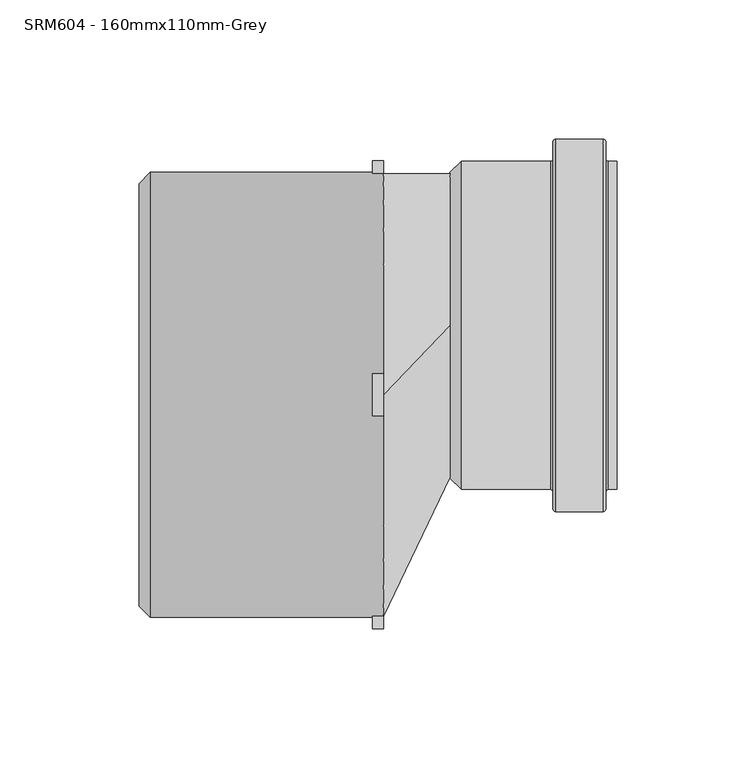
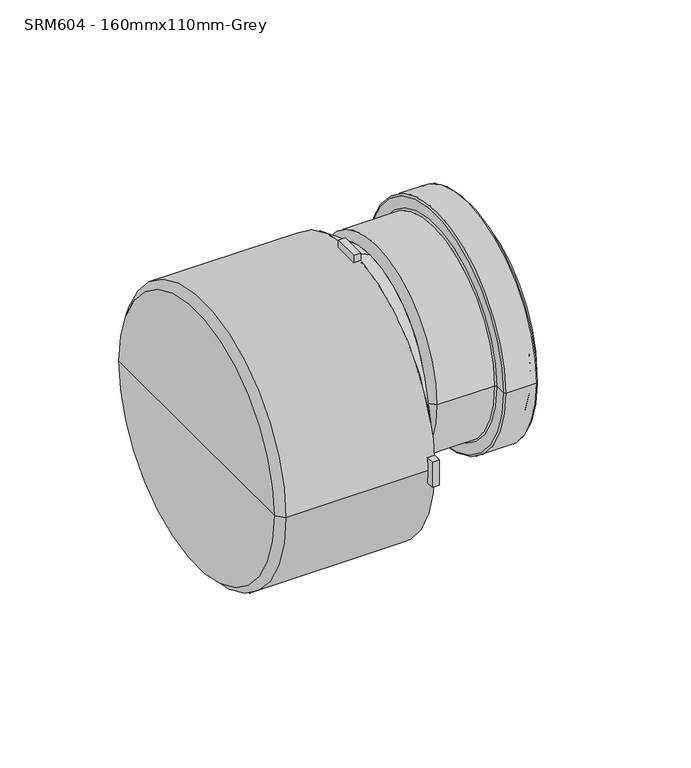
"""IFC4 building model written with IfcOpenShell, lengths in millimetres: pipe fitting geometry, MarleyPlumbingAndDrainage_PipeFitting_LevelInvertReducer : SRM604 - 160mmx110mm-Grey."""

import ifcopenshell
import ifcopenshell.guid

model = None  # the IFC model being written
_history = None  # IfcOwnerHistory: only IFC2X3 demands one
_inside = {}  # id of a spatial element -> (the spatial element, [elements in it])
_under = {}  # id of a project, library or spatial element -> (it, [spatial elements below it])
_declared = {}  # id of a project -> (the project, [libraries it declares])
_typed = {}  # id of a type object -> (the type object, [elements of that type])
_made_of = {}  # id of a material, layer set ... -> (it, [elements and type objects made of it])


def new_model(schema):
    """Start an empty IFC model of exactly this schema.

    Asked for "IFC4X3", IfcOpenShell would pick the latest addendum, in which some entities
    have other attributes; the version numbers below select the first issue.
    IFC2X3 requires an IfcOwnerHistory on every rooted entity: one is made here for all.
    """
    global model, _history
    if schema == "IFC4X3":
        model = ifcopenshell.file(schema_version=(4, 3, 0, 0))
    else:
        model = ifcopenshell.file(schema=schema)
    _inside.clear()
    _under.clear()
    _declared.clear()
    _typed.clear()
    _made_of.clear()
    _history = None
    if model.schema == "IFC2X3":
        org = make("IfcOrganization", Name="unknown")
        user = make(
            "IfcPersonAndOrganization",
            ThePerson=make("IfcPerson", FamilyName="unknown"),
            TheOrganization=org,
        )
        app = make(
            "IfcApplication",
            ApplicationDeveloper=org,
            Version="unknown",
            ApplicationFullName="unknown",
            ApplicationIdentifier="unknown",
        )
        _history = make(
            "IfcOwnerHistory",
            OwningUser=user,
            OwningApplication=app,
            ChangeAction="ADDED",
            CreationDate=0,
        )
    return model


def make(cls, **values):
    """One entity of the class cls with the attributes given. An attribute that is None is left unset."""
    return model.create_entity(
        cls, **{name: value for name, value in values.items() if value is not None}
    )


def rooted(cls, **values):
    """An entity with a GlobalId (a new one), such as an element, a storey or a relation."""
    return make(cls, GlobalId=ifcopenshell.guid.new(), OwnerHistory=_history, **values)


def si_unit(unit_type, name, prefix=None):
    """IfcSIUnit, for example si_unit("LENGTHUNIT", "METRE", prefix="MILLI")."""
    return make("IfcSIUnit", UnitType=unit_type, Prefix=prefix, Name=name)


def assignment(units):
    """IfcUnitAssignment: the units of a project."""
    return None if units is None else make("IfcUnitAssignment", Units=units)


def point(xyz):
    """IfcCartesianPoint."""
    return None if xyz is None else make("IfcCartesianPoint", Coordinates=xyz)


def direction(xyz):
    """IfcDirection."""
    return None if xyz is None else make("IfcDirection", DirectionRatios=xyz)


def frame(location, z_axis=None, x_axis=None):
    """IfcAxis2Placement3D, a coordinate frame: its origin and axes. An axis left out is left unset."""
    return make(
        "IfcAxis2Placement3D",
        Location=point(location),
        Axis=direction(z_axis),
        RefDirection=direction(x_axis),
    )


def frame_2d(location, x_axis=None):
    """IfcAxis2Placement2D, a coordinate frame in the plane: its origin and x axis."""
    return make(
        "IfcAxis2Placement2D", Location=point(location), RefDirection=direction(x_axis)
    )


def origin():
    """The frame at (0, 0, 0) with its axes left unset."""
    return frame((0.0, 0.0, 0.0))


def place(relative_to, where):
    """IfcLocalPlacement: puts the frame where relative to a parent placement (None: the world)."""
    return make(
        "IfcLocalPlacement", PlacementRelTo=relative_to, RelativePlacement=where
    )


def context(
    kind, dimensions, precision=None, world=None, true_north=None, identifier=None
):
    """IfcGeometricRepresentationContext, for example the 3D "Model" context."""
    return make(
        "IfcGeometricRepresentationContext",
        ContextIdentifier=identifier,
        ContextType=kind,
        CoordinateSpaceDimension=dimensions,
        Precision=precision,
        WorldCoordinateSystem=world,
        TrueNorth=true_north,
    )


def project(units=None, contexts=None):
    """IfcProject with its units and contexts."""
    return rooted(
        "IfcProject",
        Name="project",
        RepresentationContexts=contexts,
        UnitsInContext=assignment(units),
    )


def spatial(cls, under=None, at=None, **own):
    """A site, building, storey or space (cls), placed at a placement, below another one or the project."""
    s = rooted(cls, ObjectPlacement=at, **own)
    if under is not None:
        _under.setdefault(under.id(), (under, []))[1].append(s)
    return s


def polyline(points):
    """IfcPolyline through the points."""
    return make("IfcPolyline", Points=[point(p) for p in points])


def circle_curve(where, radius):
    """IfcCircle in the frame where."""
    return make("IfcCircle", Position=where, Radius=radius)


def ellipse_curve(where, semi_axis1, semi_axis2):
    """IfcEllipse in the frame where."""
    return make(
        "IfcEllipse", Position=where, SemiAxis1=semi_axis1, SemiAxis2=semi_axis2
    )


def trimmed(basis, trim1, trim2, sense, master):
    """IfcTrimmedCurve: the piece of a basis curve between two trims."""
    return make(
        "IfcTrimmedCurve",
        BasisCurve=basis,
        Trim1=trim1,
        Trim2=trim2,
        SenseAgreement=sense,
        MasterRepresentation=master,
    )


def segment(curve, same_sense, transition):
    """IfcCompositeCurveSegment."""
    return make(
        "IfcCompositeCurveSegment",
        Transition=transition,
        SameSense=same_sense,
        ParentCurve=curve,
    )


def composite_curve(segments, self_intersect=None):
    """IfcCompositeCurve: segments joined end to end."""
    return make("IfcCompositeCurve", Segments=segments, SelfIntersect=self_intersect)


def outline(outer, holes=None, kind="AREA"):
    """IfcArbitraryClosedProfileDef: a profile drawn as a closed curve; with holes, ...WithVoids."""
    if holes is None:
        return make("IfcArbitraryClosedProfileDef", ProfileType=kind, OuterCurve=outer)
    return make(
        "IfcArbitraryProfileDefWithVoids",
        ProfileType=kind,
        OuterCurve=outer,
        InnerCurves=holes,
    )


def extrude(swept, where, along, depth):
    """IfcExtrudedAreaSolid: the profile swept, set in the frame where, extruded along a direction by depth."""
    return make(
        "IfcExtrudedAreaSolid",
        SweptArea=swept,
        Position=where,
        ExtrudedDirection=direction(along),
        Depth=depth,
    )


def shape(context_of_items, identifier, shape_type, items):
    """IfcShapeRepresentation: the items that make up one representation, for example the "Body"."""
    return make(
        "IfcShapeRepresentation",
        ContextOfItems=context_of_items,
        RepresentationIdentifier=identifier,
        RepresentationType=shape_type,
        Items=items,
    )


def source(mapping_origin, context_of_items, identifier, shape_type, items):
    """IfcRepresentationMap: a shape defined once, which mapped items show again and again."""
    return make(
        "IfcRepresentationMap",
        MappingOrigin=mapping_origin,
        MappedRepresentation=shape(context_of_items, identifier, shape_type, items),
    )


def transform(
    local_origin,
    x_axis=None,
    y_axis=None,
    z_axis=None,
    scale=None,
    scale2=None,
    scale3=None,
    uniform=True,
):
    """IfcCartesianTransformationOperator3D, or its non-uniform kind. x_axis, y_axis, z_axis: its Axis1, 2, 3."""
    if uniform:
        return make(
            "IfcCartesianTransformationOperator3D",
            Axis1=direction(x_axis),
            Axis2=direction(y_axis),
            LocalOrigin=point(local_origin),
            Scale=scale,
            Axis3=direction(z_axis),
        )
    return make(
        "IfcCartesianTransformationOperator3DnonUniform",
        Axis1=direction(x_axis),
        Axis2=direction(y_axis),
        LocalOrigin=point(local_origin),
        Scale=scale,
        Axis3=direction(z_axis),
        Scale2=scale2,
        Scale3=scale3,
    )


def mapped(mapping_source, mapping_target):
    """IfcMappedItem: shows the shape of a source again, moved by a transform."""
    return make(
        "IfcMappedItem", MappingSource=mapping_source, MappingTarget=mapping_target
    )


def made_of(thing, what):
    """Note that an element or type object is made of a material, layer set ...; save() writes the relation."""
    if what is not None:
        _made_of.setdefault(what.id(), (what, []))[1].append(thing)
    return thing


def element(
    cls,
    number,
    at=None,
    inside=None,
    cuts=None,
    type_object=None,
    material=None,
    context=None,
    identifier="Body",
    shape_type=None,
    held_by="IfcProductDefinitionShape",
    body=None,
    shapes=None,
    **own,
):
    """One element of the class cls, such as IfcWall. Its Tag is "e" and its number.

    at: its placement. inside: the storey or other place that contains it. cuts: it is an
    opening in that element (IfcRelVoidsElement). A single representation is given by context,
    identifier, shape_type and body (its items); several are given by shapes. held_by: the class
    of the entity that holds the representations. save() writes the other relations.
    """
    e = rooted(cls, Tag="e%d" % number, ObjectPlacement=at, **own)
    if body is not None:
        shapes = [shape(context, identifier, shape_type, body)]
    if shapes is not None:
        e.Representation = make(held_by, Representations=shapes)
    if inside is not None:
        _inside.setdefault(inside.id(), (inside, []))[1].append(e)
    if cuts is not None:
        rooted(
            "IfcRelVoidsElement", RelatingBuildingElement=cuts, RelatedOpeningElement=e
        )
    if type_object is not None:
        _typed.setdefault(type_object.id(), (type_object, []))[1].append(e)
    return made_of(e, material)


def aggregate(whole, parts):
    """IfcRelAggregates: a whole, such as a stair, and the parts it consists of."""
    return rooted("IfcRelAggregates", RelatingObject=whole, RelatedObjects=parts)


def save(model, path):
    """Write the relations noted so far, then the file.

    IfcRelAggregates (storeys below a building ...), IfcRelContainedInSpatialStructure (elements
    in a storey), IfcRelDefinesByType, IfcRelAssociatesMaterial and IfcRelDeclares: one each for
    every whole, place, type object, material and project.
    """
    for whole, parts in _under.values():
        aggregate(whole, parts)
    for where, things in _inside.values():
        rooted(
            "IfcRelContainedInSpatialStructure",
            RelatedElements=things,
            RelatingStructure=where,
        )
    for kind, things in _typed.values():
        rooted("IfcRelDefinesByType", RelatedObjects=things, RelatingType=kind)
    for what, things in _made_of.values():
        rooted("IfcRelAssociatesMaterial", RelatedObjects=things, RelatingMaterial=what)
    for by, libraries in _declared.values():
        rooted("IfcRelDeclares", RelatingContext=by, RelatedDefinitions=libraries)
    model.write(path)


def plane_surface(at):
    """IfcPlane: the flat surface through the origin of the frame at, square to its z axis."""
    return make("IfcPlane", Position=at)


def cylinder_surface(at, radius):
    """IfcCylindricalSurface: all points at the distance radius from the z axis of the frame at."""
    return make("IfcCylindricalSurface", Position=at, Radius=radius)


def revolved_surface(curve, axis_point, axis_direction):
    """IfcSurfaceOfRevolution: the curve turned about the line through axis_point along axis_direction."""
    return make(
        "IfcSurfaceOfRevolution",
        SweptCurve=make("IfcArbitraryOpenProfileDef", ProfileType="CURVE", Curve=curve),
        AxisPosition=make("IfcAxis1Placement", Location=point(axis_point), Axis=direction(axis_direction)),
    )


def spline_surface(u_degree, v_degree, points, u_multiplicities, v_multiplicities, u_knots, v_knots, weights=None):
    """IfcBSplineSurfaceWithKnots; with weights, IfcRationalBSplineSurfaceWithKnots. points: one row for each step in u."""
    own = dict(
        UDegree=u_degree,
        VDegree=v_degree,
        ControlPointsList=[[point(p) for p in row] for row in points],
        SurfaceForm="UNSPECIFIED",
        UClosed=False,
        VClosed=False,
        SelfIntersect=False,
        UMultiplicities=u_multiplicities,
        VMultiplicities=v_multiplicities,
        UKnots=u_knots,
        VKnots=v_knots,
        KnotSpec="UNSPECIFIED",
    )
    if weights is None:
        return make("IfcBSplineSurfaceWithKnots", **own)
    return make("IfcRationalBSplineSurfaceWithKnots", WeightsData=weights, **own)


def advanced_brep(points, edges, surfaces, faces):
    """IfcAdvancedBrep: a solid bounded by faces that lie on surfaces and meet in shared edges.

    An edge is (start, end): straight between two places in points (the first is 0);
    or (start, end, curve); or (start, end, curve, False) where it runs against its curve.
    A face is (place in surfaces, loops), or (place, loops, False) where it looks against
    its surface's normal. A loop lists edges by number (the first is 1), with a minus sign
    where the edge is run from its end to its start. The first loop is the outer one.
    """
    corners = [point(p) for p in points]
    vertices = [make("IfcVertexPoint", VertexGeometry=c) for c in corners]
    made = []
    for start, end, *more in edges:
        made.append(
            make(
                "IfcEdgeCurve",
                EdgeStart=vertices[start],
                EdgeEnd=vertices[end],
                EdgeGeometry=more[0] if more else make("IfcPolyline", Points=[corners[start], corners[end]]),
                SameSense=more[1] if len(more) > 1 else True,
            )
        )
    hull = []
    for where, loops, *sense in faces:
        bounds = []
        for j, loop in enumerate(loops):
            ring = [make("IfcOrientedEdge", EdgeElement=made[abs(k) - 1], Orientation=k > 0) for k in loop]
            bounds.append(
                make(
                    "IfcFaceOuterBound" if j == 0 else "IfcFaceBound",
                    Bound=make("IfcEdgeLoop", EdgeList=ring),
                    Orientation=True,
                )
            )
        hull.append(make("IfcAdvancedFace", Bounds=bounds, FaceSurface=surfaces[where], SameSense=sense[0] if sense else True))
    return make("IfcAdvancedBrep", Outer=make("IfcClosedShell", CfsFaces=hull))


def srm604_160mmx110mm_grey_a2399ba8(model_context):
    return source(origin(), model_context, "Body", "SolidModel", [
        advanced_brep(
        [(-263.2799651, -101.0, 0.0), (-263.2799651, 51.0, 0.0), (-259.2799651, 55.0, 0.0), (-259.2799651, -105.0, 0.0), (-263.2799651, -25.0, 0.0), (-175.2799651, 55.0, 0.0), (-175.2799651, -25.0, -80.0), (-175.2799651, -55.6146746, -73.9103626), (-175.2799651, -81.5685425, -56.5685425), (-175.2799651, -98.9103626, -30.6146746), (-175.2799651, -105.0, 0.0), (-175.2799651, -98.9103626, 30.6146746), (-175.2799651, -81.5685425, 56.5685425), (-175.2799651, -55.6146746, 73.9103626), (-175.2799651, -25.0, 80.0), (-151.2799651, 0.0, -55.0), (-151.2799651, 0.0, 55.0)],
        [
            (0, 1, circle_curve(frame((-263.2799651, -25.0, 0.0), z_axis=(1.0, 0.0, 0.0), x_axis=(0.0, 1.0, 0.0)), 76.0)),
            (1, 2),
            (2, 3, circle_curve(frame((-259.2799651, -25.0, 0.0), z_axis=(-1.0, 0.0, 0.0), x_axis=(0.0, 1.0, 0.0)), 80.0)),
            (3, 0),
            (1, 0, circle_curve(frame((-263.2799651, -25.0, 0.0), z_axis=(1.0, 0.0, 0.0), x_axis=(0.0, 1.0, 0.0)), 76.0)),
            (3, 2, circle_curve(frame((-259.2799651, -25.0, 0.0), z_axis=(-1.0, 0.0, 0.0), x_axis=(0.0, 1.0, 0.0)), 80.0)),
            (0, 4),
            (4, 1),
            (2, 5),
            (5, 6, circle_curve(frame((-175.2799651, -25.0, 0.0), z_axis=(-1.0, 0.0, 0.0), x_axis=(0.0, 1.0, 0.0)), 80.0)),
            (6, 7, circle_curve(frame((-175.2799651, -25.0, 0.0), z_axis=(-1.0, 0.0, 0.0), x_axis=(0.0, 1.0, 0.0)), 80.0)),
            (7, 8, circle_curve(frame((-175.2799651, -25.0, 0.0), z_axis=(-1.0, 0.0, 0.0), x_axis=(0.0, 1.0, 0.0)), 80.0)),
            (8, 9, circle_curve(frame((-175.2799651, -25.0, 0.0), z_axis=(-1.0, 0.0, 0.0), x_axis=(0.0, 1.0, 0.0)), 80.0)),
            (9, 10, circle_curve(frame((-175.2799651, -25.0, 0.0), z_axis=(-1.0, 0.0, 0.0), x_axis=(0.0, 1.0, 0.0)), 80.0)),
            (10, 3),
            (10, 11, circle_curve(frame((-175.2799651, -25.0, 0.0), z_axis=(-1.0, 0.0, 0.0), x_axis=(0.0, 1.0, 0.0)), 80.0)),
            (11, 12, circle_curve(frame((-175.2799651, -25.0, 0.0), z_axis=(-1.0, 0.0, 0.0), x_axis=(0.0, 1.0, 0.0)), 80.0)),
            (12, 13, circle_curve(frame((-175.2799651, -25.0, 0.0), z_axis=(-1.0, 0.0, 0.0), x_axis=(0.0, 1.0, 0.0)), 80.0)),
            (13, 14, circle_curve(frame((-175.2799651, -25.0, 0.0), z_axis=(-1.0, 0.0, 0.0), x_axis=(0.0, 1.0, 0.0)), 80.0)),
            (14, 5, circle_curve(frame((-175.2799651, -25.0, 0.0), z_axis=(-1.0, 0.0, 0.0), x_axis=(0.0, 1.0, 0.0)), 80.0)),
            (15, 16, circle_curve(frame((-151.2799651, 0.0, 0.0), z_axis=(1.0, 0.0, 0.0), x_axis=(0.0, 0.0, 1.0)), 55.0)),
            (16, 15, circle_curve(frame((-151.2799651, 0.0, 0.0), z_axis=(1.0, 0.0, 0.0), x_axis=(0.0, 0.0, 1.0)), 55.0)),
            (15, 6),
            (14, 16),
        ],
        [
            revolved_surface(polyline([(-259.2799651, 55.0, 0.0), (-263.2799651, 51.0, 0.0)]), (1.0, -25.0, 0.0), (-1.0, 0.0, 0.0)),
            plane_surface(frame((-263.2799651, -25.0, 0.0), z_axis=(-1.0, 0.0, 0.0), x_axis=(0.0, 1.0, 0.0))),
            cylinder_surface(frame((1.0, -25.0, 0.0), z_axis=(-1.0, 0.0, 0.0), x_axis=(0.0, 1.0, 0.0)), 80.0),
            plane_surface(frame((-151.2799651, 0.0, 0.0), z_axis=(1.0, 0.0, 0.0), x_axis=(0.0, 1.0, 0.0))),
            spline_surface(2, 1, [[(-175.2799651, -25.0, -80.0), (-151.2799651, 0.0, -55.0)], [(-175.2799651, 55.0, -80.0), (-151.2799651, 55.0, -55.0)], [(-175.2799651, 55.0, 0.0), (-151.2799651, 55.0, 0.0)], [(-175.2799651, 55.0, 80.0), (-151.2799651, 55.0, 55.0)], [(-175.2799651, -25.0, 80.0), (-151.2799651, 0.0, 55.0)]], [3, 2, 3], [2, 2], [0.0, 1.0, 2.0], [0.0, 1.0], weights=[[1.0, 1.0], [0.7071067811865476, 0.7071067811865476], [1.0, 1.0], [0.7071067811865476, 0.7071067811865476], [1.0, 1.0]]),
            spline_surface(2, 1, [[(-175.2799651, -25.0, 80.0), (-151.2799651, 0.0, 55.0)], [(-175.2799651, -105.0, 80.0), (-151.2799651, -55.0, 55.0)], [(-175.2799651, -105.0, 0.0), (-151.2799651, -55.0, 0.0)], [(-175.2799651, -105.0, -80.0), (-151.2799651, -55.0, -55.0)], [(-175.2799651, -25.0, -80.0), (-151.2799651, 0.0, -55.0)]], [3, 2, 3], [2, 2], [0.0, 1.0, 2.0], [0.0, 1.0], weights=[[1.0, 1.0], [0.7071067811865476, 0.7071067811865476], [1.0, 1.0], [0.7071067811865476, 0.7071067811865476], [1.0, 1.0]]),
        ],
        [
            (0, [[1, 2, 3, 4]]),
            (0, [[-2, 5, -4, 6]]),
            (1, [[-1, 7, 8]]),
            (1, [[-5, -8, -7]]),
            (2, [[-3, 9, 10, 11, 12, 13, 14, 15]]),
            (2, [[-6, -15, 16, 17, 18, 19, 20, -9]]),
            (3, [[21, 22]]),
            (4, [[-21, 23, -10, -20, 24]]),
            (5, [[-22, -24, -19, -18, -17, -16, -14, -13, -12, -11, -23]]),
        ],
    ),
        extrude(outline(composite_curve([segment(trimmed(circle_curve(frame_2d((-25.0, 0.0)), 84.5), [point((-109.1665017, -7.5))], [point((-109.1665017, 7.5))], False, "CARTESIAN"), True, "CONTINUOUS"), segment(polyline([(-109.1665017, 7.5), (-104.6476616, 7.5)]), True, "CONTINUOUS"), segment(trimmed(circle_curve(frame_2d((-25.0, 0.0)), 80.0), [point((-104.6476616, 7.5))], [point((-104.6476616, -7.5))], True, "CARTESIAN"), True, "CONTINUOUS"), segment(polyline([(-104.6476616, -7.5), (-109.1665017, -7.5)]), True, "CONTINUOUS")], self_intersect=False)), frame((-179.2799651, 0.0, 0.0), z_axis=(1.0, 0.0, 0.0), x_axis=(0.0, 1.0, 0.0)), (0.0, 0.0, 1.0), 4.0),
        extrude(outline(composite_curve([segment(polyline([(54.6476616, 7.5), (59.1665017, 7.5)]), True, "CONTINUOUS"), segment(trimmed(circle_curve(frame_2d((-25.0, 0.0)), 84.5), [point((59.1665017, 7.5))], [point((59.1665017, -7.5))], False, "CARTESIAN"), True, "CONTINUOUS"), segment(polyline([(59.1665017, -7.5), (54.6476616, -7.5)]), True, "CONTINUOUS"), segment(trimmed(circle_curve(frame_2d((-25.0, 0.0)), 80.0), [point((54.6476616, -7.5))], [point((54.6476616, 7.5))], True, "CARTESIAN"), True, "CONTINUOUS")], self_intersect=False)), frame((-179.2799651, 0.0, 0.0), z_axis=(1.0, 0.0, 0.0), x_axis=(0.0, 1.0, 0.0)), (0.0, 0.0, 1.0), 4.0),
        extrude(outline(composite_curve([segment(polyline([(-17.5, -79.6476616), (-17.5, -84.1665017)]), True, "CONTINUOUS"), segment(trimmed(circle_curve(frame_2d((-25.0, 0.0)), 84.5), [point((-17.5, -84.1665017))], [point((-32.5, -84.1665017))], False, "CARTESIAN"), True, "CONTINUOUS"), segment(polyline([(-32.5, -84.1665017), (-32.5, -79.6476616)]), True, "CONTINUOUS"), segment(trimmed(circle_curve(frame_2d((-25.0, 0.0)), 80.0), [point((-32.5, -79.6476616))], [point((-17.5, -79.6476616))], True, "CARTESIAN"), True, "CONTINUOUS")], self_intersect=False)), frame((-179.2799651, 0.0, 0.0), z_axis=(1.0, 0.0, 0.0), x_axis=(0.0, 1.0, 0.0)), (0.0, 0.0, 1.0), 4.0),
        extrude(outline(composite_curve([segment(polyline([(-32.5, 79.6476616), (-32.5, 84.1665017)]), True, "CONTINUOUS"), segment(trimmed(circle_curve(frame_2d((-25.0, 0.0)), 84.5), [point((-32.5, 84.1665017))], [point((-17.5, 84.1665017))], False, "CARTESIAN"), True, "CONTINUOUS"), segment(polyline([(-17.5, 84.1665017), (-17.5, 79.6476616)]), True, "CONTINUOUS"), segment(trimmed(circle_curve(frame_2d((-25.0, 0.0)), 80.0), [point((-17.5, 79.6476616))], [point((-32.5, 79.6476616))], True, "CARTESIAN"), True, "CONTINUOUS")], self_intersect=False)), frame((-179.2799651, 0.0, 0.0), z_axis=(1.0, 0.0, 0.0), x_axis=(0.0, 1.0, 0.0)), (0.0, 0.0, 1.0), 4.0),
        advanced_brep(
        [(-91.2799651, 55.0, 0.0), (-91.2799651, -55.0, 0.0), (-91.2799651, -59.0, 0.0), (-91.2799651, 59.0, 0.0), (-149.2799651, 55.0, 0.0), (-149.2799651, -55.0, 0.0), (-115.2799651, 59.0, 0.0), (-115.2799651, -59.0, 0.0), (-147.2799651, -59.0, 0.0), (-147.2799651, 59.0, 0.0), (-114.2799651, 66.0, 0.0), (-114.2799651, -66.0, 0.0), (-114.2799651, -60.0, 0.0), (-114.2799651, 60.0, 0.0), (-96.2799651, 67.0, 0.0), (-96.2799651, -67.0, 0.0), (-113.2799651, -67.0, 0.0), (-113.2799651, 67.0, 0.0), (-95.2799651, 60.0, 0.0), (-95.2799651, -60.0, 0.0), (-95.2799651, -66.0, 0.0), (-95.2799651, 66.0, 0.0), (-94.2799651, -59.0, 0.0), (-94.2799651, 59.0, 0.0), (-149.2799651, 0.0, 0.0), (-151.2799651, 55.0, 0.0), (-151.2799651, -55.0, 0.0), (-151.2799651, 0.0, 0.0)],
        [
            (0, 1, circle_curve(frame((-91.2799651, 0.0, 0.0), z_axis=(-1.0, 0.0, 0.0), x_axis=(0.0, -1.0, 0.0)), 55.0)),
            (1, 2),
            (2, 3, circle_curve(frame((-91.2799651, 0.0, 0.0), z_axis=(1.0, 0.0, 0.0), x_axis=(0.0, -1.0, 0.0)), 59.0)),
            (3, 0),
            (1, 0, circle_curve(frame((-91.2799651, 0.0, 0.0), z_axis=(-1.0, 0.0, 0.0), x_axis=(0.0, -1.0, 0.0)), 55.0)),
            (3, 2, circle_curve(frame((-91.2799651, 0.0, 0.0), z_axis=(1.0, 0.0, 0.0), x_axis=(0.0, -1.0, 0.0)), 59.0)),
            (4, 5, circle_curve(frame((-149.2799651, 0.0, 0.0), z_axis=(-1.0, 0.0, 0.0), x_axis=(0.0, -1.0, 0.0)), 55.0)),
            (5, 1),
            (0, 4),
            (5, 4, circle_curve(frame((-149.2799651, 0.0, 0.0), z_axis=(-1.0, 0.0, 0.0), x_axis=(0.0, -1.0, 0.0)), 55.0)),
            (6, 7, circle_curve(frame((-115.2799651, 0.0, 0.0), z_axis=(-1.0, 0.0, 0.0), x_axis=(0.0, -1.0, 0.0)), 59.0)),
            (7, 8),
            (8, 9, circle_curve(frame((-147.2799651, 0.0, 0.0), z_axis=(1.0, 0.0, 0.0), x_axis=(0.0, -1.0, 0.0)), 59.0)),
            (9, 6),
            (7, 6, circle_curve(frame((-115.2799651, 0.0, 0.0), z_axis=(-1.0, 0.0, 0.0), x_axis=(0.0, -1.0, 0.0)), 59.0)),
            (9, 8, circle_curve(frame((-147.2799651, 0.0, 0.0), z_axis=(1.0, 0.0, 0.0), x_axis=(0.0, -1.0, 0.0)), 59.0)),
            (10, 11, circle_curve(frame((-114.2799651, 0.0, 0.0), z_axis=(-1.0, 0.0, 0.0), x_axis=(0.0, -1.0, 0.0)), 66.0)),
            (11, 12),
            (12, 13, circle_curve(frame((-114.2799651, 0.0, 0.0), z_axis=(1.0, 0.0, 0.0), x_axis=(0.0, -1.0, 0.0)), 60.0)),
            (13, 10),
            (11, 10, circle_curve(frame((-114.2799651, 0.0, 0.0), z_axis=(-1.0, 0.0, 0.0), x_axis=(0.0, -1.0, 0.0)), 66.0)),
            (13, 12, circle_curve(frame((-114.2799651, 0.0, 0.0), z_axis=(1.0, 0.0, 0.0), x_axis=(0.0, -1.0, 0.0)), 60.0)),
            (14, 15, circle_curve(frame((-96.2799651, 0.0, 0.0), z_axis=(-1.0, 0.0, 0.0), x_axis=(0.0, -1.0, 0.0)), 67.0)),
            (15, 16),
            (16, 17, circle_curve(frame((-113.2799651, 0.0, 0.0), z_axis=(1.0, 0.0, 0.0), x_axis=(0.0, -1.0, 0.0)), 67.0)),
            (17, 14),
            (15, 14, circle_curve(frame((-96.2799651, 0.0, 0.0), z_axis=(-1.0, 0.0, 0.0), x_axis=(0.0, -1.0, 0.0)), 67.0)),
            (17, 16, circle_curve(frame((-113.2799651, 0.0, 0.0), z_axis=(1.0, 0.0, 0.0), x_axis=(0.0, -1.0, 0.0)), 67.0)),
            (18, 19, circle_curve(frame((-95.2799651, 0.0, 0.0), z_axis=(-1.0, 0.0, 0.0), x_axis=(0.0, -1.0, 0.0)), 60.0)),
            (19, 20),
            (20, 21, circle_curve(frame((-95.2799651, 0.0, 0.0), z_axis=(1.0, 0.0, 0.0), x_axis=(0.0, -1.0, 0.0)), 66.0)),
            (21, 18),
            (19, 18, circle_curve(frame((-95.2799651, 0.0, 0.0), z_axis=(-1.0, 0.0, 0.0), x_axis=(0.0, -1.0, 0.0)), 60.0)),
            (21, 20, circle_curve(frame((-95.2799651, 0.0, 0.0), z_axis=(1.0, 0.0, 0.0), x_axis=(0.0, -1.0, 0.0)), 66.0)),
            (2, 22),
            (22, 23, circle_curve(frame((-94.2799651, 0.0, 0.0), z_axis=(1.0, 0.0, 0.0), x_axis=(0.0, -1.0, 0.0)), 59.0)),
            (23, 3),
            (23, 22, circle_curve(frame((-94.2799651, 0.0, 0.0), z_axis=(1.0, 0.0, 0.0), x_axis=(0.0, -1.0, 0.0)), 59.0)),
            (12, 7, circle_curve(frame((-115.2799651, -60.0, 0.0), z_axis=(0.0, 0.0, 1.0), x_axis=(1.0, 0.0, 0.0)), 1.0)),
            (6, 13, circle_curve(frame((-115.2799651, 60.0, 0.0), z_axis=(0.0, 0.0, 1.0), x_axis=(1.0, 0.0, 0.0)), 1.0)),
            (16, 11, circle_curve(frame((-113.2799651, -66.0, 0.0), z_axis=(0.0, 0.0, -1.0), x_axis=(1.0, 0.0, 0.0)), 1.0)),
            (10, 17, circle_curve(frame((-113.2799651, 66.0, 0.0), z_axis=(0.0, 0.0, -1.0), x_axis=(1.0, 0.0, 0.0)), 1.0)),
            (20, 15, circle_curve(frame((-96.2799651, -66.0, 0.0), z_axis=(0.0, 0.0, -1.0), x_axis=(1.0, 0.0, 0.0)), 1.0)),
            (14, 21, circle_curve(frame((-96.2799651, 66.0, 0.0), z_axis=(0.0, 0.0, -1.0), x_axis=(1.0, 0.0, 0.0)), 1.0)),
            (22, 19, circle_curve(frame((-94.2799651, -60.0, 0.0), z_axis=(0.0, 0.0, 1.0), x_axis=(1.0, 0.0, 0.0)), 1.0)),
            (18, 23, circle_curve(frame((-94.2799651, 60.0, 0.0), z_axis=(0.0, 0.0, 1.0), x_axis=(1.0, 0.0, 0.0)), 1.0)),
            (24, 5),
            (4, 24),
            (25, 26, circle_curve(frame((-151.2799651, 0.0, 0.0), z_axis=(-1.0, 0.0, 0.0), x_axis=(0.0, -1.0, 0.0)), 55.0)),
            (26, 27),
            (27, 25),
            (26, 25, circle_curve(frame((-151.2799651, 0.0, 0.0), z_axis=(-1.0, 0.0, 0.0), x_axis=(0.0, -1.0, 0.0)), 55.0)),
            (8, 26),
            (25, 9),
        ],
        [
            plane_surface(frame((-91.2799651, 0.0, 0.0), z_axis=(1.0, 0.0, 0.0), x_axis=(0.0, -1.0, 0.0))),
            revolved_surface(polyline([(-91.2799651, -55.0, 0.0), (-149.2799651, -55.0, 0.0)]), (-299.1478542, 0.0, 0.0), (1.0, 0.0, 0.0)),
            cylinder_surface(frame((-299.1478542, 0.0, 0.0), z_axis=(1.0, 0.0, 0.0), x_axis=(0.0, -1.0, 0.0)), 59.0),
            plane_surface(frame((-114.2799651, 0.0, 0.0), z_axis=(-1.0, 0.0, 0.0), x_axis=(0.0, -1.0, 0.0))),
            cylinder_surface(frame((-299.1478542, 0.0, 0.0), z_axis=(1.0, 0.0, 0.0), x_axis=(0.0, -1.0, 0.0)), 67.0),
            plane_surface(frame((-95.2799651, 0.0, 0.0), z_axis=(1.0, 0.0, 0.0), x_axis=(0.0, -1.0, 0.0))),
            revolved_surface(trimmed(ellipse_curve(frame((-115.2799651, -60.0, 0.0), z_axis=(0.0, 0.0, -1.0), x_axis=(1.0, 0.0, 0.0)), 1.0, 1.0), [point((-115.2799651, -59.0, 0.0))], [point((-114.2799651, -60.0, 0.0))], True, "CARTESIAN"), (-299.1478542, 0.0, 0.0), (1.0, 0.0, 0.0)),
            revolved_surface(trimmed(ellipse_curve(frame((-113.2799651, -66.0, 0.0), z_axis=(0.0, 0.0, 1.0), x_axis=(1.0, 0.0, 0.0)), 1.0, 1.0), [point((-114.2799651, -66.0, 0.0))], [point((-113.2799651, -67.0, 0.0))], True, "CARTESIAN"), (-299.1478542, 0.0, 0.0), (1.0, 0.0, 0.0)),
            revolved_surface(trimmed(ellipse_curve(frame((-96.2799651, -66.0, 0.0), z_axis=(0.0, 0.0, 1.0), x_axis=(1.0, 0.0, 0.0)), 1.0, 1.0), [point((-96.2799651, -67.0, 0.0))], [point((-95.2799651, -66.0, 0.0))], True, "CARTESIAN"), (-299.1478542, 0.0, 0.0), (1.0, 0.0, 0.0)),
            revolved_surface(trimmed(ellipse_curve(frame((-94.2799651, -60.0, 0.0), z_axis=(0.0, 0.0, -1.0), x_axis=(1.0, 0.0, 0.0)), 1.0, 1.0), [point((-95.2799651, -60.0, 0.0))], [point((-94.2799651, -59.0, 0.0))], True, "CARTESIAN"), (-299.1478542, 0.0, 0.0), (1.0, 0.0, 0.0)),
            plane_surface(frame((-149.2799651, 0.0, 0.0), z_axis=(1.0, 0.0, 0.0), x_axis=(0.0, -1.0, 0.0))),
            plane_surface(frame((-151.2799651, 0.0, 0.0), z_axis=(-1.0, 0.0, 0.0), x_axis=(0.0, -1.0, 0.0))),
            revolved_surface(polyline([(-151.2799651, -55.0, 0.0), (-147.2799651, -59.0, 0.0)]), (-299.1478542, 0.0, 0.0), (1.0, 0.0, 0.0)),
        ],
        [
            (0, [[1, 2, 3, 4]]),
            (0, [[5, -4, 6, -2]]),
            (1, [[7, 8, -1, 9]]),
            (1, [[10, -9, -5, -8]]),
            (2, [[11, 12, 13, 14]]),
            (2, [[15, -14, 16, -12]]),
            (3, [[17, 18, 19, 20]]),
            (3, [[21, -20, 22, -18]]),
            (4, [[23, 24, 25, 26]]),
            (4, [[27, -26, 28, -24]]),
            (5, [[29, 30, 31, 32]]),
            (5, [[33, -32, 34, -30]]),
            (2, [[-3, 35, 36, 37]]),
            (2, [[-6, -37, 38, -35]]),
            (6, [[-19, 39, -11, 40]]),
            (6, [[-22, -40, -15, -39]]),
            (7, [[-25, 41, -17, 42]]),
            (7, [[-28, -42, -21, -41]]),
            (8, [[-31, 43, -23, 44]]),
            (8, [[-34, -44, -27, -43]]),
            (9, [[-36, 45, -29, 46]]),
            (9, [[-38, -46, -33, -45]]),
            (10, [[47, -7, 48]]),
            (10, [[-48, -10, -47]]),
            (11, [[49, 50, 51]]),
            (11, [[52, -51, -50]]),
            (12, [[-13, 53, -49, 54]]),
            (12, [[-16, -54, -52, -53]]),
        ],
    ),
    ])


if __name__ == "__main__":
    model = new_model("IFC4")
    model_context = context("Model", 3, world=origin())
    ifc_project = project(units=[si_unit("LENGTHUNIT", "METRE", prefix="MILLI")], contexts=[model_context])
    site = spatial("IfcSite", under=ifc_project)
    building = spatial("IfcBuilding", under=site)
    placement = place(None, origin())
    srm604_160mmx110mm_grey_shape = srm604_160mmx110mm_grey_a2399ba8(model_context)
    element("IfcPipeFitting", 1, ObjectType="MarleyPlumbingAndDrainage_PipeFitting_LevelInvertReducer : SRM604 - 160mmx110mm-Grey", at=placement, inside=building, context=model_context, shape_type="MappedRepresentation", body=[
        mapped(srm604_160mmx110mm_grey_shape, transform((0.0, 0.0, 0.0), x_axis=(1.0, 0.0, 0.0), y_axis=(0.0, 1.0, 0.0), z_axis=(0.0, 0.0, 1.0))),
    ])
    save(model, "model.ifc")
